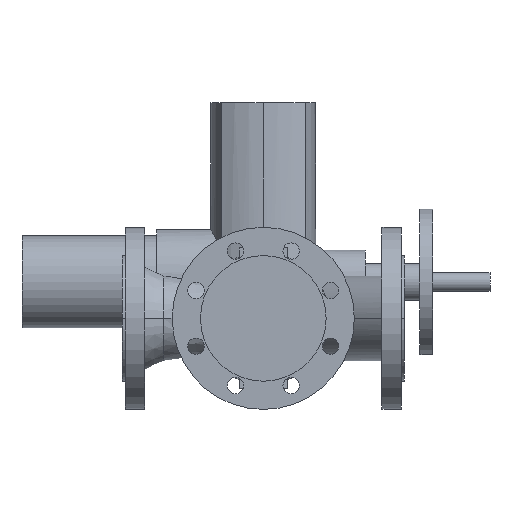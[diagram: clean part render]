
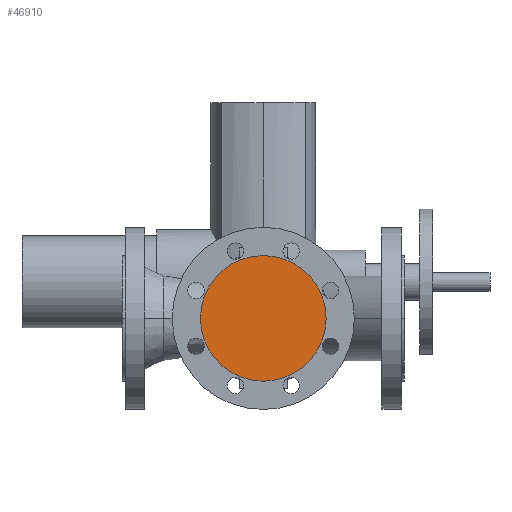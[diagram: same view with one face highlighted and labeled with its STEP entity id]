
A CAD part, front view. The second image highlights one B-rep face of the part: STEP entity #46910.
In plain terms, the highlighted planar face has unit normal (0, -1, 0).
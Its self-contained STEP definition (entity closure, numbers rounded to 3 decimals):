
#4710=CARTESIAN_POINT('',(86.,-130.,0.));
#4720=VERTEX_POINT('',#4710);
#4750=CARTESIAN_POINT('',(155.,-130.,0.));
#4760=DIRECTION('',(0.,1.,0.));
#4770=DIRECTION('',(1.,0.,0.));
#4780=AXIS2_PLACEMENT_3D('',#4750,#4760,#4770);
#4790=CIRCLE('',#4780,69.);
#4800=CARTESIAN_POINT('',(224.,-130.,0.));
#4810=VERTEX_POINT('',#4800);
#4820=EDGE_CURVE('',#4810,#4720,#4790,.T.);
#46810=CARTESIAN_POINT('',(189.5,-130.,0.));
#46820=DIRECTION('',(0.,-1.,0.));
#46830=DIRECTION('',(-1.,0.,0.));
#46840=AXIS2_PLACEMENT_3D('',#46810,#46820,#46830);
#46850=PLANE('',#46840);
#46860=ORIENTED_EDGE('',*,*,#4820,.F.);
#46870=EDGE_CURVE('',#4720,#4810,#4790,.T.);
#46880=ORIENTED_EDGE('',*,*,#46870,.F.);
#46890=EDGE_LOOP('',(#46880,#46860));
#46900=FACE_OUTER_BOUND('',#46890,.T.);
#46910=ADVANCED_FACE('',(#46900),#46850,.T.);
